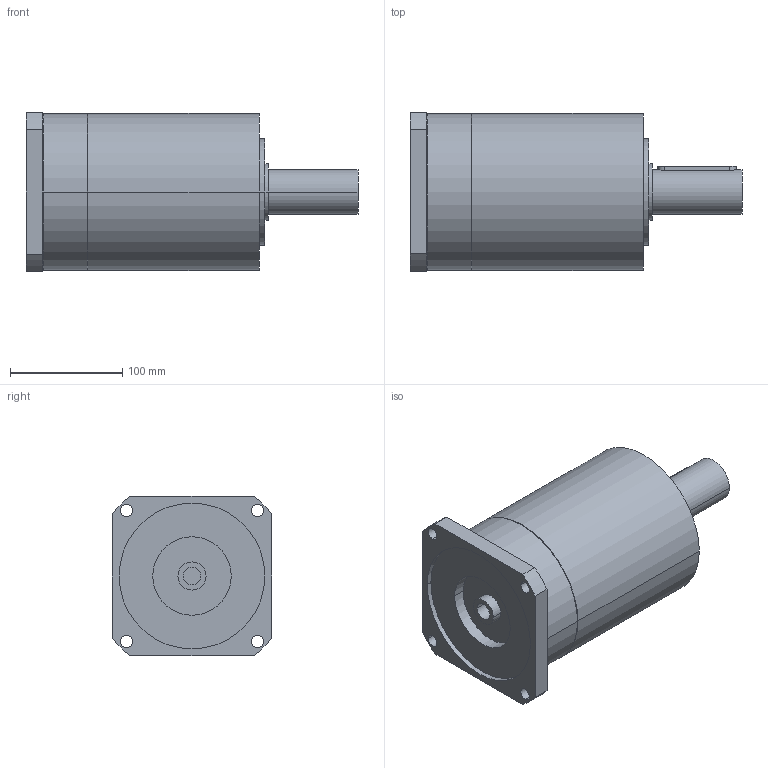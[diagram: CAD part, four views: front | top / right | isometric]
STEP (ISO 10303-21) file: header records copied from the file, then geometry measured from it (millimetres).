
FILE_DESCRIPTION(('CoCreate Modeling STEP Export'),'2;1');
FILE_NAME('GPR150_ig-9-12-16-20-28-35_40_B14_16_P05.stp','2014-08-19T17:02:59',(''),(''),'CoCreate Modeling STEP processor for AP214 (Solid Model)','CoCreate Modeling 16.00C 25-Feb-2009 (C) Parametric Technology GmbH','');
FILE_SCHEMA(('AUTOMOTIVE_DESIGN { 1 0 10303 214 1 1 1 1 }'));
Length unit declared in the file: millimetre
Products named in the file (2): GPR150_ig-9-12-16-20-28-35_40_B14_16_P05
Assembly tree (1 placements, depth 2):
  GPR150_ig-9-12-16-20-28-35_40_B14_16_P05
    GPR150_ig-9-12-16-20-28-35_40_B14_16_P05
Bounding box: 296 x 142 x 142 mm (x, y, z)
Volume: 3287573.9 mm3; surface area: 158436.7 mm2
Topology: 1 solids, 1 shells, 70 faces, 189 edges, 133 vertices
Faces by surface type: cylinder 42, plane 22, cone 6
Entity records: 1973 total; most frequent: CARTESIAN_POINT 386, ORIENTED_EDGE 374, DIRECTION 264, EDGE_CURVE 187, VERTEX_POINT 133, AXIS2_PLACEMENT_3D 99, EDGE_LOOP 92, FACE_OUTER_BOUND 70
